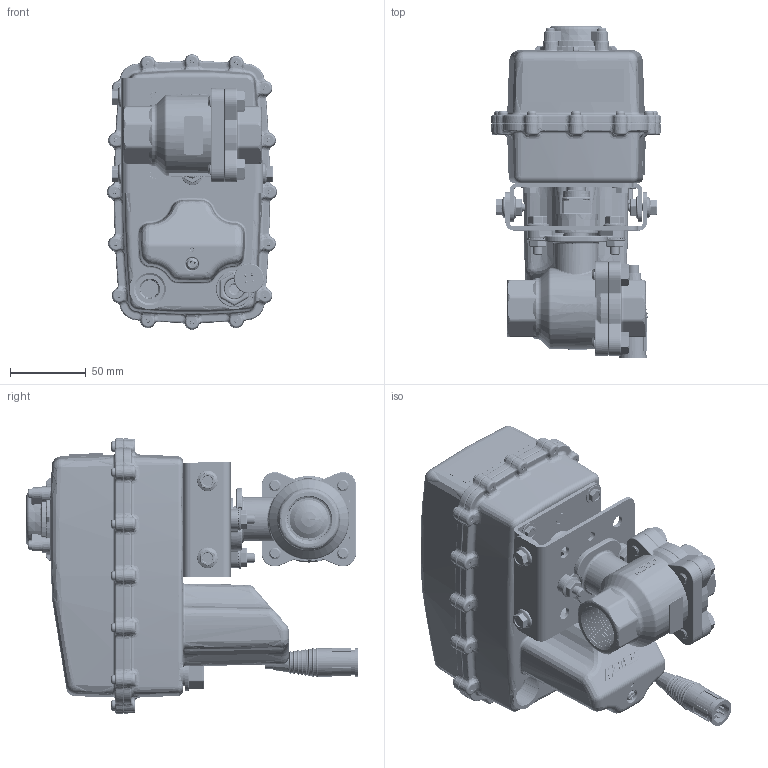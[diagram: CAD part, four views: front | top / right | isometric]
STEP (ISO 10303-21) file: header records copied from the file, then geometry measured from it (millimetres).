
FILE_DESCRIPTION (( 'STEP AP203' ), '1' );
FILE_NAME ('S8F22-K0HU0-CF1.STEP', '2025-05-13T19:20:51', ( '' ), ( '' ), 'SwSTEP 2.0', 'SolidWorks 2021', '' );
FILE_SCHEMA (( 'CONFIG_CONTROL_DESIGN' ));
Length unit declared in the file: inch
Products named in the file (1): S8F22-K0HU0-CF1
Bounding box: 112.49 x 219.25 x 182.34 mm (x, y, z)
Surface area: 341874.9 mm2 (no closed solid volume)
Topology: 0 solids, 76 shells, 10509 faces, 27099 edges, 16581 vertices
Faces by surface type: cylinder 3115, plane 2615, bspline 1906, torus 1649, cone 783, sphere 441
Entity records: 472380 total; most frequent: CARTESIAN_POINT 240016, ORIENTED_EDGE 53070, DIRECTION 44476, EDGE_CURVE 26556, AXIS2_PLACEMENT_3D 17623, VERTEX_POINT 16379, EDGE_LOOP 10906, FACE_OUTER_BOUND 10509
